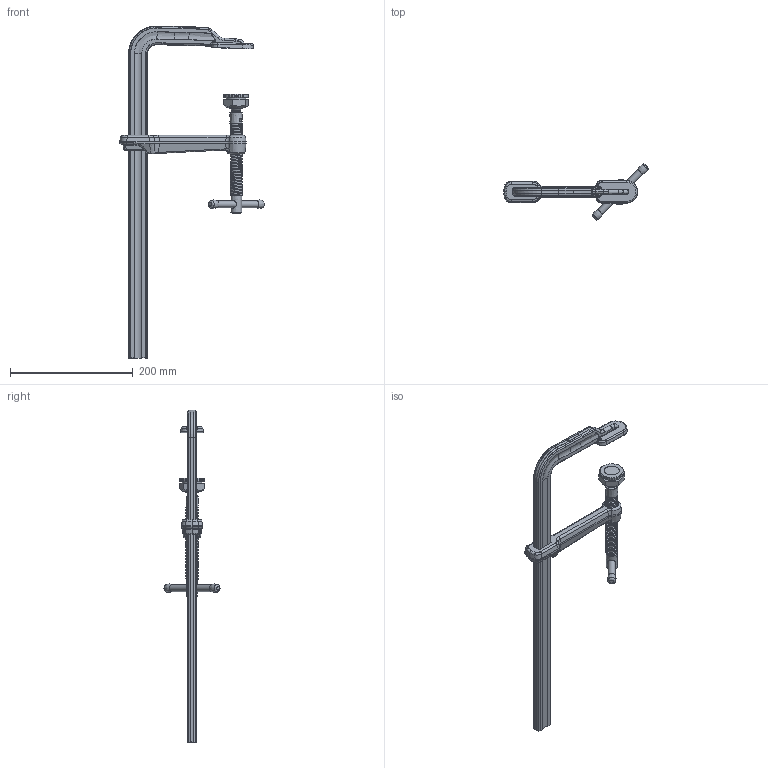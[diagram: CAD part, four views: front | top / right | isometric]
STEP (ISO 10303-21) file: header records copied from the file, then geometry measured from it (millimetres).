
FILE_DESCRIPTION( ('This file contains a STEP AP42 implementation' ,'as created by ZW3D STEP Interface translator.') ,'2;1' );
FILE_NAME( 'GSM40.stp' ,'20 7 1.103933', (''), ('ZWCAD Software Co.'), 'Version 1.0', 'ZW3D to STEP translator', '' );
FILE_SCHEMA(('AUTOMOTIVE_DESIGN'));
Length unit declared in the file: millimetre
Products named in the file (11): 0; zusammenbau; Festbügel_CSG40; Gleitbügel; 3100705b_Gleitb_kpl_SG14M; 3001156b; 3100123_Spindel_kpl_SGM; 3000047_Spindel_SGM; 3101541a_Druckplatte kpl 2-Lini; 3007071_Bolzen_HLZ; 3008298b
Assembly tree (9 placements, depth 5):
  0
  zusammenbau
    Festbügel_CSG40
    Gleitbügel
      3100705b_Gleitb_kpl_SG14M
        3001156b
        3100123_Spindel_kpl_SGM
          3000047_Spindel_SGM
        3101541a_Druckplatte kpl 2-Lini
          3007071_Bolzen_HLZ
          3008298b
Bounding box: 235.33 x 91.11 x 539.92 mm (x, y, z)
Volume: 455240.2 mm3; surface area: 122593.2 mm2
Topology: 8 solids, 9 shells, 468 faces, 1250 edges, 939 vertices
Faces by surface type: bspline 468
Entity records: 137172 total; most frequent: CARTESIAN_POINT 129948, ORIENTED_EDGE 2193, EDGE_CURVE 1101, B_SPLINE_CURVE_WITH_KNOTS 783, VERTEX_POINT 654, EDGE_LOOP 486, FACE_OUTER_BOUND 468, ADVANCED_FACE 468
